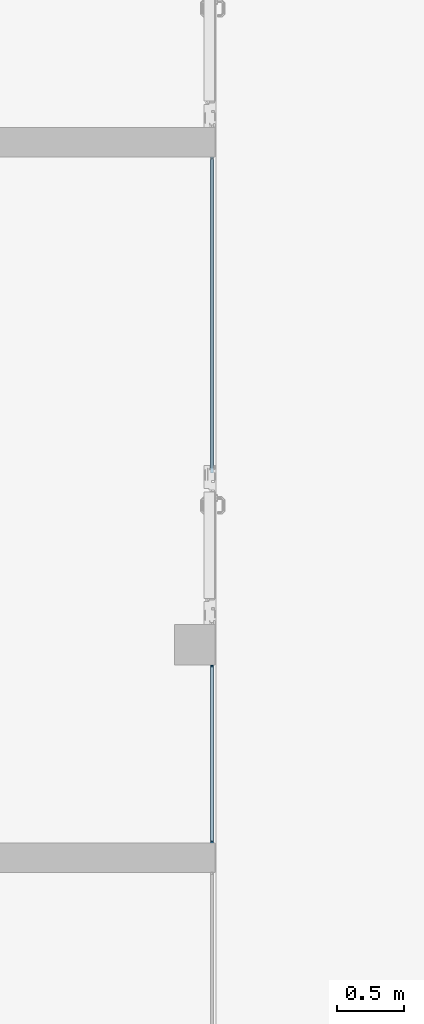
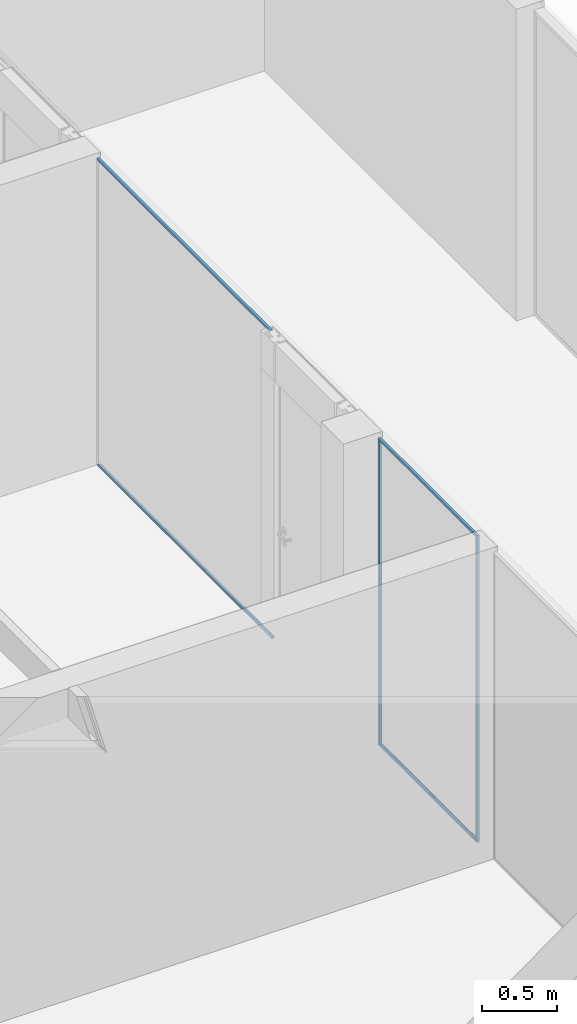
# One storey, part 24 of 79: 6 members, 2 elements without a shape of their own.
"""IFC2X3 building model written with IfcOpenShell, lengths in millimetres."""

from ifc_helpers import new_model, entity, si_unit, converted_unit, derived_unit, money_unit, direction, frame, origin_with_axes, place, context, subcontext, project, spatial, faceted_brep, material, material_list, type_object, element, aggregate, save


model = new_model("IFC2X3")

# Units and contexts
model_context = context("Model", 3, precision=0.01, world=origin_with_axes(), true_north=direction((0.0, 1.0)))
body_context = subcontext(model_context, "Body", "Model", "MODEL_VIEW")
ifc_project = project(units=[si_unit("LENGTHUNIT", "METRE", prefix="MILLI"), si_unit("AREAUNIT", "SQUARE_METRE"), si_unit("VOLUMEUNIT", "CUBIC_METRE"), converted_unit("PLANEANGLEUNIT", "DEGREE", entity("IfcPlaneAngleMeasure", 0.0174532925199), si_unit("PLANEANGLEUNIT", "RADIAN"), dimensions=[0, 0, 0, 0, 0, 0, 0]), si_unit("SOLIDANGLEUNIT", "STERADIAN"), money_unit("EUR"), converted_unit("TIMEUNIT", "Year", entity("IfcTimeMeasure", 31556926.0), si_unit("TIMEUNIT", "SECOND"), dimensions=[0, 0, 1, 0, 0, 0, 0]), si_unit("MASSUNIT", "GRAM", prefix="KILO"), si_unit("THERMODYNAMICTEMPERATUREUNIT", "DEGREE_CELSIUS"), si_unit("LUMINOUSINTENSITYUNIT", "LUMEN"), si_unit("ENERGYUNIT", "JOULE", prefix="MEGA"), derived_unit("THERMALCONDUCTANCEUNIT", [(si_unit("POWERUNIT", "WATT"), 1), (si_unit("LENGTHUNIT", "METRE"), -1), (si_unit("THERMODYNAMICTEMPERATUREUNIT", "KELVIN"), -1)]), derived_unit("SPECIFICHEATCAPACITYUNIT", [(si_unit("ENERGYUNIT", "JOULE"), 1), (si_unit("MASSUNIT", "GRAM", prefix="KILO"), -1), (si_unit("THERMODYNAMICTEMPERATUREUNIT", "KELVIN"), -1)]), derived_unit("MASSDENSITYUNIT", [(si_unit("MASSUNIT", "GRAM", prefix="KILO"), 1), (si_unit("VOLUMEUNIT", "CUBIC_METRE"), -1)])], contexts=[model_context])

# Site, building, storey
site_placement = place(None, origin_with_axes())
site = spatial("IfcSite", under=ifc_project, at=site_placement, Name="L.Koidula tn 11b", CompositionType="ELEMENT")
building_placement = place(site_placement, origin_with_axes())
building = spatial("IfcBuilding", under=site, at=building_placement, Name="Rakvere Riigigümnaasium", CompositionType="ELEMENT")
storey_placement = place(building_placement, frame((0.0, 0.0, 3720.0), z_axis=(0.0, 0.0, 1.0), x_axis=(1.0, 0.0, 0.0)))
storey = spatial("IfcBuildingStorey", under=building, at=storey_placement, Name="2.korrus +3,72", CompositionType="ELEMENT", Elevation=3720.0)

# Curtain wall, members
curtain_wall_type = type_object("IfcCurtainWallType", Name="Curtain Wall Type", PredefinedType="NOTDEFINED")
curtain_wall_1_placement = place(storey_placement, frame((41131.0009816, 23440.4555362, -2.36129205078e-06), z_axis=(0.0, 0.0, 1.0), x_axis=(1.0, 0.0, 0.0)))
curtain_wall_1 = element("IfcCurtainWall", 1, at=curtain_wall_1_placement, inside=storey, type_object=curtain_wall_type, Name="SKLF-14")
ifc_material_1 = material(Name="Klaasvill")
ifc_material_2 = material(Name="Alumiiniumprofiil")
ifc_material_list = material_list([ifc_material_1, ifc_material_2])
member_type = type_object("IfcMemberType", Name="Boundary Frame 17 x 1", PredefinedType="MULLION")
member_1_placement = place(curtain_wall_1_placement, frame((0.0, -660.000010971, 0.0), z_axis=(0.0, 0.0, 1.0), x_axis=(0.0, -1.0, 0.0)))
member_1 = element("IfcMember", 2, at=member_1_placement, type_object=member_type, material=ifc_material_list, Name="PV-SKLF-42-raam", ObjectType="MULLION", context=body_context, shape_type="Brep", body=[
    faceted_brep([(-8.35001937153, 5.0, 8.35001937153), (-8.35001937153, 5.0, 2499.64992651), (-2.00001937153, 5.0, 2505.99992651), (-2.00001937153, 5.0, 2.00001937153), (-8.35001937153, -9.01614452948, 8.35001937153), (-8.35001937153, -9.01614452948, 2499.64992651), (-2.00001937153, -9.01614452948, 2505.99992651), (-2.00001937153, -9.01614452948, 2.00001937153)], [[[0, 1, 2, 3]], [[4, 5, 1, 0]], [[2, 1, 5, 6]], [[3, 2, 6, 7]], [[3, 7, 4, 0]], [[7, 6, 5, 4]]]),
    faceted_brep([(-12.004489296, -7.03075035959, 12.004489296), (-12.004489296, -7.03075035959, 2495.99545658), (-11.987414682, -9.01614444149, 2496.0125312), (-11.987414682, -9.01614444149, 11.987414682), (-12.742237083, -6.29300257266, 12.742237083), (-12.742237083, -6.29300257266, 2495.2577088), (-13.7500193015, -6.02296814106, 2494.24992658), (-14.75780152, -6.29300257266, 2493.24214436), (-15.4955493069, -7.03075035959, 2492.50439657), (-15.7655837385, -8.03853257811, 2492.23436214), (-15.5126239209, -9.01614444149, 2492.48732196), (-15.5126239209, -9.01614444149, 15.5126239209), (-15.7655837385, -8.03853257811, 15.7655837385), (-15.4955493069, -7.03075035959, 15.4955493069), (-14.75780152, -6.29300257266, 14.75780152), (-13.7500193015, -6.02296814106, 13.7500193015)], [[[0, 1, 2, 3]], [[4, 5, 1, 0]], [[2, 1, 5, 6, 7, 8, 9, 10]], [[3, 2, 10, 11]], [[3, 11, 12, 13, 14, 15, 4, 0]], [[15, 6, 5, 4]], [[14, 7, 6, 15]], [[13, 8, 7, 14]], [[12, 9, 8, 13]], [[11, 10, 9, 12]]]),
    faceted_brep([(-17.0000193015, 8.0, 17.0000193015), (-17.0000193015, 8.0, 2490.99992658), (0.0, 8.0, 2507.99994588), (0.0, 8.0, 0.0), (-17.0000193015, 5.0, 17.0000193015), (-17.0000193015, 5.0, 2490.99992658), (-8.35001937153, 5.0, 2499.64992651), (-2.00001930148, 5.0, 2505.99992658), (-2.00001930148, -9.01614444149, 2505.99992658), (-8.35001937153, -9.01614452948, 2499.64992651), (-11.987414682, -9.01614444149, 2496.0125312), (-15.5126239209, -9.01614444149, 2492.48732196), (-17.0000193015, -9.01614444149, 2490.99992658), (-17.0000193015, -12.0, 2490.99992658), (0.0, -12.0, 2507.99994588), (0.0, -12.0, 0.0), (-17.0000193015, -12.0, 17.0000193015), (-17.0000193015, -9.01614444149, 17.0000193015), (-15.5126239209, -9.01614444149, 15.5126239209), (-11.987414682, -9.01614444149, 11.987414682), (-8.35001937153, -9.01614452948, 8.35001937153), (-2.00001930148, -9.01614444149, 2.00001930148), (-2.00001930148, 5.0, 2.00001930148), (-8.35001937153, 5.0, 8.35001937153)], [[[0, 1, 2, 3]], [[4, 5, 1, 0]], [[2, 1, 5, 6, 7, 8, 9, 10, 11, 12, 13, 14]], [[3, 2, 14, 15]], [[3, 15, 16, 17, 18, 19, 20, 21, 22, 23, 4, 0]], [[23, 6, 5, 4]], [[22, 7, 6, 23]], [[21, 8, 7, 22]], [[20, 9, 8, 21]], [[19, 10, 9, 20]], [[18, 11, 10, 19]], [[17, 12, 11, 18]], [[16, 13, 12, 17]], [[15, 14, 13, 16]]]),
])
member_2_placement = place(curtain_wall_1_placement, frame((0.0, -660.000010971, 2507.99994588), z_axis=(0.0, 1.0, 0.0), x_axis=(0.0, 0.0, 1.0)))
member_2 = element("IfcMember", 3, at=member_2_placement, type_object=member_type, material=ifc_material_list, Name="PV-SKLF-45-raam", ObjectType="MULLION", context=body_context, shape_type="Brep", body=[
    faceted_brep([(-8.35001937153, 5.0, 8.35001937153), (-8.35001937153, 5.0, 1311.65000257), (-2.00001937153, 5.0, 1318.00000257), (-2.00001937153, 5.0, 2.00001937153), (-8.35001937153, -9.01614452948, 8.35001937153), (-8.35001937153, -9.01614452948, 1311.65000257), (-2.00001937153, -9.01614452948, 1318.00000257), (-2.00001937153, -9.01614452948, 2.00001937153)], [[[0, 1, 2, 3]], [[4, 5, 1, 0]], [[2, 1, 5, 6]], [[3, 2, 6, 7]], [[3, 7, 4, 0]], [[7, 6, 5, 4]]]),
    faceted_brep([(-12.004489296, -7.03075035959, 12.004489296), (-12.004489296, -7.03075035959, 1307.99553265), (-11.987414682, -9.01614444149, 1308.01260726), (-11.987414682, -9.01614444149, 11.987414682), (-12.742237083, -6.29300257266, 12.742237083), (-12.742237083, -6.29300257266, 1307.25778486), (-13.7500193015, -6.02296814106, 1306.25000264), (-14.75780152, -6.29300257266, 1305.24222042), (-15.4955493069, -7.03075035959, 1304.50447264), (-15.7655837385, -8.03853257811, 1304.2344382), (-15.5126239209, -9.01614444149, 1304.48739802), (-15.5126239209, -9.01614444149, 15.5126239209), (-15.7655837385, -8.03853257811, 15.7655837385), (-15.4955493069, -7.03075035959, 15.4955493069), (-14.75780152, -6.29300257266, 14.75780152), (-13.7500193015, -6.02296814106, 13.7500193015)], [[[0, 1, 2, 3]], [[4, 5, 1, 0]], [[2, 1, 5, 6, 7, 8, 9, 10]], [[3, 2, 10, 11]], [[3, 11, 12, 13, 14, 15, 4, 0]], [[15, 6, 5, 4]], [[14, 7, 6, 15]], [[13, 8, 7, 14]], [[12, 9, 8, 13]], [[11, 10, 9, 12]]]),
    faceted_brep([(-17.0000193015, 8.0, 17.0000193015), (-17.0000193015, 8.0, 1303.00000264), (0.0, 8.0, 1320.00002194), (0.0, 8.0, 0.0), (-17.0000193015, 5.0, 17.0000193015), (-17.0000193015, 5.0, 1303.00000264), (-8.35001937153, 5.0, 1311.65000257), (-2.00001930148, 5.0, 1318.00000264), (-2.00001930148, -9.01614444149, 1318.00000264), (-8.35001937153, -9.01614452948, 1311.65000257), (-11.987414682, -9.01614444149, 1308.01260726), (-15.5126239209, -9.01614444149, 1304.48739802), (-17.0000193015, -9.01614444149, 1303.00000264), (-17.0000193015, -12.0, 1303.00000264), (0.0, -12.0, 1320.00002194), (0.0, -12.0, 0.0), (-17.0000193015, -12.0, 17.0000193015), (-17.0000193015, -9.01614444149, 17.0000193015), (-15.5126239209, -9.01614444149, 15.5126239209), (-11.987414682, -9.01614444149, 11.987414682), (-8.35001937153, -9.01614452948, 8.35001937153), (-2.00001930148, -9.01614444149, 2.00001930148), (-2.00001930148, 5.0, 2.00001930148), (-8.35001937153, 5.0, 8.35001937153)], [[[0, 1, 2, 3]], [[4, 5, 1, 0]], [[2, 1, 5, 6, 7, 8, 9, 10, 11, 12, 13, 14]], [[3, 2, 14, 15]], [[3, 15, 16, 17, 18, 19, 20, 21, 22, 23, 4, 0]], [[23, 6, 5, 4]], [[22, 7, 6, 23]], [[21, 8, 7, 22]], [[20, 9, 8, 21]], [[19, 10, 9, 20]], [[18, 11, 10, 19]], [[17, 12, 11, 18]], [[16, 13, 12, 17]], [[15, 14, 13, 16]]]),
])
member_3_placement = place(curtain_wall_1_placement, frame((0.0, 660.000010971, 0.0), z_axis=(0.0, 0.0, 1.0), x_axis=(0.0, -1.0, 0.0)))
member_3 = element("IfcMember", 4, at=member_3_placement, type_object=member_type, material=ifc_material_list, Name="PV-SKLF-44-raam", ObjectType="MULLION", context=body_context, shape_type="Brep", body=[
    faceted_brep([(8.35001937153, 5.0, 8.35001937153), (2.00001937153, 5.0, 2.00001937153), (2.00001937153, 5.0, 2505.99992651), (8.35001937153, 5.0, 2499.64992651), (8.35001937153, -9.01614452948, 8.35001937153), (2.00001937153, -9.01614452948, 2.00001937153), (2.00001937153, -9.01614452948, 2505.99992651), (8.35001937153, -9.01614452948, 2499.64992651)], [[[0, 1, 2, 3]], [[1, 0, 4, 5]], [[1, 5, 6, 2]], [[2, 6, 7, 3]], [[4, 0, 3, 7]], [[5, 4, 7, 6]]]),
    faceted_brep([(12.004489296, -7.03075035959, 12.004489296), (11.987414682, -9.01614444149, 11.987414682), (11.987414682, -9.01614444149, 2496.0125312), (12.004489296, -7.03075035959, 2495.99545658), (12.742237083, -6.29300257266, 12.742237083), (13.7500193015, -6.02296814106, 13.7500193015), (14.75780152, -6.29300257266, 14.75780152), (15.4955493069, -7.03075035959, 15.4955493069), (15.7655837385, -8.03853257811, 15.7655837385), (15.5126239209, -9.01614444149, 15.5126239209), (15.5126239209, -9.01614444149, 2492.48732196), (15.7655837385, -8.03853257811, 2492.23436214), (15.4955493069, -7.03075035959, 2492.50439657), (14.75780152, -6.29300257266, 2493.24214436), (13.7500193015, -6.02296814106, 2494.24992658), (12.742237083, -6.29300257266, 2495.2577088)], [[[0, 1, 2, 3]], [[1, 0, 4, 5, 6, 7, 8, 9]], [[1, 9, 10, 2]], [[2, 10, 11, 12, 13, 14, 15, 3]], [[4, 0, 3, 15]], [[5, 4, 15, 14]], [[6, 5, 14, 13]], [[7, 6, 13, 12]], [[8, 7, 12, 11]], [[9, 8, 11, 10]]]),
    faceted_brep([(17.0000193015, 8.0, 17.0000193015), (0.0, 8.0, 0.0), (0.0, 8.0, 2507.99994588), (17.0000193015, 8.0, 2490.99992658), (17.0000193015, 5.0, 17.0000193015), (8.35001937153, 5.0, 8.35001937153), (2.00001930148, 5.0, 2.00001930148), (2.00001930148, -9.01614444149, 2.00001930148), (8.35001937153, -9.01614452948, 8.35001937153), (11.987414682, -9.01614444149, 11.987414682), (15.5126239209, -9.01614444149, 15.5126239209), (17.0000193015, -9.01614444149, 17.0000193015), (17.0000193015, -12.0, 17.0000193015), (0.0, -12.0, 0.0), (0.0, -12.0, 2507.99994588), (17.0000193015, -12.0, 2490.99992658), (17.0000193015, -9.01614444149, 2490.99992658), (15.5126239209, -9.01614444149, 2492.48732196), (11.987414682, -9.01614444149, 2496.0125312), (8.35001937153, -9.01614452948, 2499.64992651), (2.00001930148, -9.01614444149, 2505.99992658), (2.00001930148, 5.0, 2505.99992658), (8.35001937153, 5.0, 2499.64992651), (17.0000193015, 5.0, 2490.99992658)], [[[0, 1, 2, 3]], [[1, 0, 4, 5, 6, 7, 8, 9, 10, 11, 12, 13]], [[1, 13, 14, 2]], [[2, 14, 15, 16, 17, 18, 19, 20, 21, 22, 23, 3]], [[4, 0, 3, 23]], [[5, 4, 23, 22]], [[6, 5, 22, 21]], [[7, 6, 21, 20]], [[8, 7, 20, 19]], [[9, 8, 19, 18]], [[10, 9, 18, 17]], [[11, 10, 17, 16]], [[12, 11, 16, 15]], [[13, 12, 15, 14]]]),
])
member_4_placement = place(curtain_wall_1_placement, frame((0.0, -660.000010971, 0.0), z_axis=(0.0, 1.0, 0.0), x_axis=(0.0, 0.0, 1.0)))
member_4 = element("IfcMember", 5, at=member_4_placement, type_object=member_type, material=ifc_material_list, Name="PV-SKLF-43-raam", ObjectType="MULLION", context=body_context, shape_type="Brep", body=[
    faceted_brep([(8.35001937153, 5.0, 8.35001937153), (2.00001937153, 5.0, 2.00001937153), (2.00001937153, 5.0, 1318.00000257), (8.35001937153, 5.0, 1311.65000257), (8.35001937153, -9.01614452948, 8.35001937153), (2.00001937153, -9.01614452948, 2.00001937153), (2.00001937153, -9.01614452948, 1318.00000257), (8.35001937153, -9.01614452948, 1311.65000257)], [[[0, 1, 2, 3]], [[1, 0, 4, 5]], [[1, 5, 6, 2]], [[2, 6, 7, 3]], [[4, 0, 3, 7]], [[5, 4, 7, 6]]]),
    faceted_brep([(12.004489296, -7.03075035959, 12.004489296), (11.987414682, -9.01614444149, 11.987414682), (11.987414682, -9.01614444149, 1308.01260726), (12.004489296, -7.03075035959, 1307.99553265), (12.742237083, -6.29300257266, 12.742237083), (13.7500193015, -6.02296814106, 13.7500193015), (14.75780152, -6.29300257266, 14.75780152), (15.4955493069, -7.03075035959, 15.4955493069), (15.7655837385, -8.03853257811, 15.7655837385), (15.5126239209, -9.01614444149, 15.5126239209), (15.5126239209, -9.01614444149, 1304.48739802), (15.7655837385, -8.03853257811, 1304.2344382), (15.4955493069, -7.03075035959, 1304.50447264), (14.75780152, -6.29300257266, 1305.24222042), (13.7500193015, -6.02296814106, 1306.25000264), (12.742237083, -6.29300257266, 1307.25778486)], [[[0, 1, 2, 3]], [[1, 0, 4, 5, 6, 7, 8, 9]], [[1, 9, 10, 2]], [[2, 10, 11, 12, 13, 14, 15, 3]], [[4, 0, 3, 15]], [[5, 4, 15, 14]], [[6, 5, 14, 13]], [[7, 6, 13, 12]], [[8, 7, 12, 11]], [[9, 8, 11, 10]]]),
    faceted_brep([(17.0000193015, 8.0, 17.0000193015), (0.0, 8.0, 0.0), (0.0, 8.0, 1320.00002194), (17.0000193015, 8.0, 1303.00000264), (17.0000193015, 5.0, 17.0000193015), (8.35001937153, 5.0, 8.35001937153), (2.00001930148, 5.0, 2.00001930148), (2.00001930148, -9.01614444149, 2.00001930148), (8.35001937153, -9.01614452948, 8.35001937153), (11.987414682, -9.01614444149, 11.987414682), (15.5126239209, -9.01614444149, 15.5126239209), (17.0000193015, -9.01614444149, 17.0000193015), (17.0000193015, -12.0, 17.0000193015), (0.0, -12.0, 0.0), (0.0, -12.0, 1320.00002194), (17.0000193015, -12.0, 1303.00000264), (17.0000193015, -9.01614444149, 1303.00000264), (15.5126239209, -9.01614444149, 1304.48739802), (11.987414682, -9.01614444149, 1308.01260726), (8.35001937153, -9.01614452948, 1311.65000257), (2.00001930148, -9.01614444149, 1318.00000264), (2.00001930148, 5.0, 1318.00000264), (8.35001937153, 5.0, 1311.65000257), (17.0000193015, 5.0, 1303.00000264)], [[[0, 1, 2, 3]], [[1, 0, 4, 5, 6, 7, 8, 9, 10, 11, 12, 13]], [[1, 13, 14, 2]], [[2, 14, 15, 16, 17, 18, 19, 20, 21, 22, 23, 3]], [[4, 0, 3, 23]], [[5, 4, 23, 22]], [[6, 5, 22, 21]], [[7, 6, 21, 20]], [[8, 7, 20, 19]], [[9, 8, 19, 18]], [[10, 9, 18, 17]], [[11, 10, 17, 16]], [[12, 11, 16, 15]], [[13, 12, 15, 14]]]),
])
aggregate(curtain_wall_1, [member_1, member_2, member_3, member_4])

curtain_wall_2_placement = place(storey_placement, frame((41130.915445, 24920.4555468, 0.0), z_axis=(0.0, 0.0, 1.0), x_axis=(1.0, 0.0, 0.0)))
curtain_wall_2 = element("IfcCurtainWall", 6, at=curtain_wall_2_placement, inside=storey, type_object=curtain_wall_type, Name="SKLF-15")
member_5_placement = place(curtain_wall_2_placement, frame((0.0255191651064, 605.622181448, 0.0), z_axis=(4.21371043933e-05, 0.999999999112, 0.0), x_axis=(0.0, 0.0, 1.0)))
member_5 = element("IfcMember", 7, at=member_5_placement, type_object=member_type, material=ifc_material_list, Name="PV-SKLF-61-raam", ObjectType="MULLION", context=body_context, shape_type="Brep", body=[
    faceted_brep([(2.00001937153, 5.00000000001, 0.0), (2.00001937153, 4.99999999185, 2341.88148065), (8.35001937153, 4.99999999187, 2335.53148065), (8.35001937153, 5.00000000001, 0.0), (2.00001937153, -9.01614452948, 0.0), (2.00001937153, -9.01614453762, 2341.88148065), (8.35001937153, -9.0161445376, 2335.53148065), (8.35001937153, -9.01614452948, 0.0)], [[[0, 1, 2, 3]], [[4, 5, 1, 0]], [[1, 5, 6, 2]], [[3, 2, 6, 7]], [[0, 3, 7, 4]], [[7, 6, 5, 4]]]),
    faceted_brep([(11.987414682, -9.01614444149, 0.0), (11.987414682, -9.0161444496, 2331.89408533), (12.004489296, -7.0307503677, 2331.87701072), (12.004489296, -7.03075035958, 0.0), (15.5126239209, -9.01614444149, 0.0), (15.5126239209, -9.01614444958, 2328.3688761), (15.7655837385, -8.03853258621, 2328.11591628), (15.4955493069, -7.03075036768, 2328.38595071), (14.75780152, -6.29300258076, 2329.1236985), (13.7500193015, -6.02296814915, 2330.13148072), (12.742237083, -6.29300258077, 2331.13926293), (12.742237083, -6.29300257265, 0.0), (13.7500193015, -6.02296814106, 0.0), (14.75780152, -6.29300257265, 0.0), (15.4955493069, -7.03075035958, 0.0), (15.7655837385, -8.03853257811, 0.0)], [[[0, 1, 2, 3]], [[4, 5, 1, 0]], [[1, 5, 6, 7, 8, 9, 10, 2]], [[3, 2, 10, 11]], [[0, 3, 11, 12, 13, 14, 15, 4]], [[15, 6, 5, 4]], [[14, 7, 6, 15]], [[13, 8, 7, 14]], [[12, 9, 8, 13]], [[11, 10, 9, 12]]]),
    faceted_brep([(0.0, 8.0, 0.0), (0.0, 7.99999999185, 2343.88150002), (17.0000193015, 7.99999999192, 2326.88148072), (17.0000193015, 8.0, 0.0), (0.0, -12.0, 0.0), (0.0, -12.0000000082, 2343.88150002), (17.0000193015, -12.0000000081, 2326.88148072), (17.0000193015, -9.01614444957, 2326.88148072), (15.5126239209, -9.01614444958, 2328.3688761), (11.987414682, -9.0161444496, 2331.89408533), (8.35001937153, -9.0161445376, 2335.53148065), (2.00001930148, -9.01614444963, 2341.88148072), (2.00001930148, 4.99999999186, 2341.88148072), (8.35001937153, 4.99999999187, 2335.53148065), (17.0000193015, 4.9999999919, 2326.88148072), (17.0000193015, 5.00000000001, 0.0), (8.35001937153, 5.00000000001, 0.0), (2.00001930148, 5.00000000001, 0.0), (2.00001930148, -9.01614444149, 0.0), (8.35001937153, -9.01614452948, 0.0), (11.987414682, -9.01614444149, 0.0), (15.5126239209, -9.01614444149, 0.0), (17.0000193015, -9.01614444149, 0.0), (17.0000193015, -12.0, 0.0)], [[[0, 1, 2, 3]], [[4, 5, 1, 0]], [[1, 5, 6, 7, 8, 9, 10, 11, 12, 13, 14, 2]], [[3, 2, 14, 15]], [[0, 3, 15, 16, 17, 18, 19, 20, 21, 22, 23, 4]], [[23, 6, 5, 4]], [[22, 7, 6, 23]], [[21, 8, 7, 22]], [[20, 9, 8, 21]], [[19, 10, 9, 20]], [[18, 11, 10, 19]], [[17, 12, 11, 18]], [[16, 13, 12, 17]], [[15, 14, 13, 16]]]),
])
member_6_placement = place(curtain_wall_2_placement, frame((0.0264242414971, 627.101502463, 2508.0), z_axis=(4.21371043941e-05, 0.999999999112, 0.0), x_axis=(0.0, 0.0, 1.0)))
member_6 = element("IfcMember", 8, at=member_6_placement, type_object=member_type, material=ifc_material_list, Name="PV-SKLF-52-raam", ObjectType="MULLION", context=body_context, shape_type="Brep", body=[
    faceted_brep([(-2.00001937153, 5.0, 0.0), (-8.35001937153, 5.0, 0.0), (-8.35001937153, 4.99999999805, 2314.05215961), (-2.00001937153, 4.99999999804, 2320.40215961), (-2.00001937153, -9.01614452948, 0.0), (-8.35001937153, -9.01614452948, 0.0), (-8.35001937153, -9.01614453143, 2314.05215961), (-2.00001937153, -9.01614453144, 2320.40215961)], [[[0, 1, 2, 3]], [[0, 4, 5, 1]], [[1, 5, 6, 2]], [[3, 2, 6, 7]], [[4, 0, 3, 7]], [[5, 4, 7, 6]]]),
    faceted_brep([(-11.987414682, -9.0161444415, 0.0), (-12.004489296, -7.03075035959, 0.0), (-12.004489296, -7.03075036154, 2310.39768969), (-11.987414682, -9.01614444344, 2310.4147643), (-15.5126239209, -9.0161444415, 0.0), (-15.7655837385, -8.03853257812, 0.0), (-15.4955493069, -7.03075035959, 0.0), (-14.75780152, -6.29300257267, 0.0), (-13.7500193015, -6.02296814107, 0.0), (-12.742237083, -6.29300257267, 0.0), (-12.742237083, -6.29300257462, 2309.6599419), (-13.7500193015, -6.02296814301, 2308.65215968), (-14.75780152, -6.29300257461, 2307.64437746), (-15.4955493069, -7.03075036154, 2306.90662968), (-15.7655837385, -8.03853258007, 2306.63659524), (-15.5126239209, -9.01614444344, 2306.88955506)], [[[0, 1, 2, 3]], [[0, 4, 5, 6, 7, 8, 9, 1]], [[1, 9, 10, 2]], [[3, 2, 10, 11, 12, 13, 14, 15]], [[4, 0, 3, 15]], [[5, 4, 15, 14]], [[6, 5, 14, 13]], [[7, 6, 13, 12]], [[8, 7, 12, 11]], [[9, 8, 11, 10]]]),
    faceted_brep([(0.0, 8.0, 0.0), (-17.0000193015, 8.0, 0.0), (-17.0000193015, 7.99999999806, 2305.40215968), (0.0, 7.99999999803, 2322.40217898), (0.0, -12.0, 0.0), (-17.0000193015, -12.0, 0.0), (-17.0000193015, -9.0161444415, 0.0), (-15.5126239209, -9.0161444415, 0.0), (-11.987414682, -9.0161444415, 0.0), (-8.35001937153, -9.01614452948, 0.0), (-2.00001930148, -9.0161444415, 0.0), (-2.00001930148, 5.0, 0.0), (-8.35001937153, 5.0, 0.0), (-17.0000193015, 5.0, 0.0), (-17.0000193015, 4.99999999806, 2305.40215968), (-8.35001937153, 4.99999999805, 2314.05215961), (-2.00001930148, 4.99999999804, 2320.40215968), (-2.00001930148, -9.01614444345, 2320.40215968), (-8.35001937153, -9.01614453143, 2314.05215961), (-11.987414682, -9.01614444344, 2310.4147643), (-15.5126239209, -9.01614444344, 2306.88955506), (-17.0000193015, -9.01614444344, 2305.40215968), (-17.0000193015, -12.0000000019, 2305.40215968), (0.0, -12.000000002, 2322.40217898)], [[[0, 1, 2, 3]], [[0, 4, 5, 6, 7, 8, 9, 10, 11, 12, 13, 1]], [[1, 13, 14, 2]], [[3, 2, 14, 15, 16, 17, 18, 19, 20, 21, 22, 23]], [[4, 0, 3, 23]], [[5, 4, 23, 22]], [[6, 5, 22, 21]], [[7, 6, 21, 20]], [[8, 7, 20, 19]], [[9, 8, 19, 18]], [[10, 9, 18, 17]], [[11, 10, 17, 16]], [[12, 11, 16, 15]], [[13, 12, 15, 14]]]),
])
aggregate(curtain_wall_2, [member_5, member_6])

save(model, "model.ifc")
